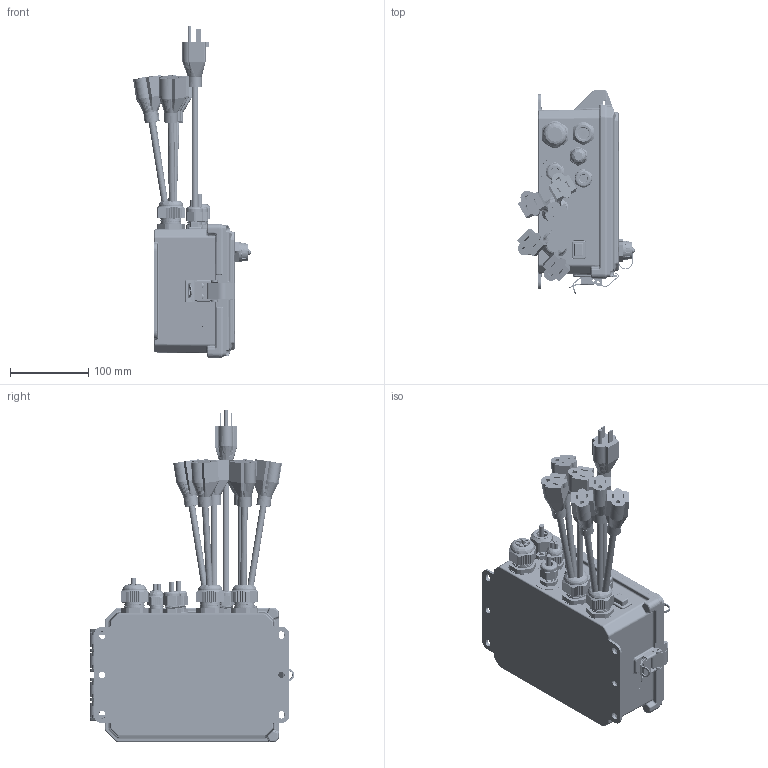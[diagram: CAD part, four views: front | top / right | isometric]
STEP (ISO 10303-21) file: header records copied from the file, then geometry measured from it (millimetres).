
FILE_DESCRIPTION (( 'STEP AP203' ), '1' );
FILE_NAME ('W600 Shell with Pigtails.STEP', '2018-03-09T15:21:45', ( '' ), ( '' ), 'SwSTEP 2.0', 'SolidWorks 2016', '' );
FILE_SCHEMA (( 'CONFIG_CONTROL_DESIGN' ));
Length unit declared in the file: inch
Products named in the file (42): 100101_USB; 9912562-82-10; W600 Shell with Pigtails; ISA0022; 103859_Cord1; 9912575-82-10_90631A007; 191577-INTEGRA; 103832; 103803; 191584; 102906; 102907; ISA0021; 103004; 103860_Cord1; 102903_102903; 103807; PCG-11 nut; 103861_without letter; Nut for M20; 191619-01; 103809; 9912576-82-10; 1032_375H_insert; ISA0016; 103025; 102407; 102444; 103911; ISA0017; 9912571-82-10_95345A043; ISA0014; 103938; 103835; 191576-INTERGRA; ISA0011; 103867; ISA0018_3 Wire; 103946; 103910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
Assembly tree (65 placements, depth 3):
  W600 Shell with Pigtails
    ISA0011
      191576-INTERGRA
      1032_375H_insert  x2
      9912562-82-10
      9912571-82-10_95345A043  x2
      9912575-82-10_90631A007  x2
      102444
      9912576-82-10  x2
    191577-INTEGRA
    191584
    ISA0018_3 Wire  x2
      102907
      102903_102903
      102906
      103860_Cord1
      103861_without letter
    ISA0017
      103938
      103859_Cord1
      PCG-11 nut
    ISA0020
      102907
      103025  x6
      103004
      102903_102903
    ISA0019_Plug  x2
      103938
      102407
      PCG-11 nut
    ISA0021
      103946
      102407
      Nut for M20
    ISA0022
      103809
      103025  x3
      PCG-11 nut
      103807
    103803
    ISA0014
      103867
      191619-01
      100101_USB
      103911
    ISA0016
      103910
      103832
    103835
Bounding box: 150.36 x 260.72 x 423.38 mm (x, y, z)
Volume: 1094092.9 mm3; surface area: 760346 mm2
Topology: 82 solids, 94 shells, 11532 faces, 30331 edges, 19313 vertices
Faces by surface type: plane 7084, cylinder 2233, bspline 1592, cone 574, torus 33, sphere 16
Entity records: 425994 total; most frequent: CARTESIAN_POINT 194483, ORIENTED_EDGE 51557, DIRECTION 39831, EDGE_CURVE 25794, LINE 16857, VECTOR 16857, VERTEX_POINT 16404, AXIS2_PLACEMENT_3D 11487
